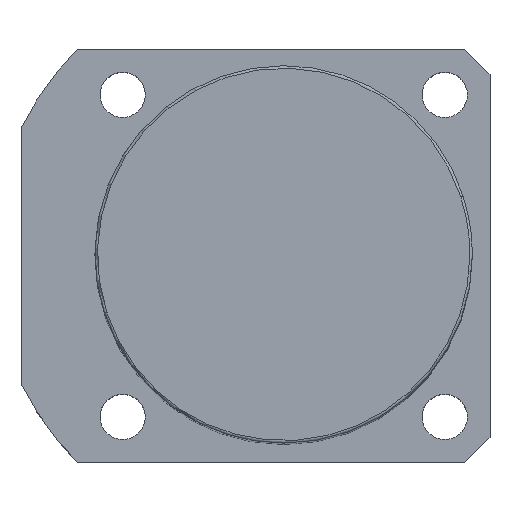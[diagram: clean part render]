
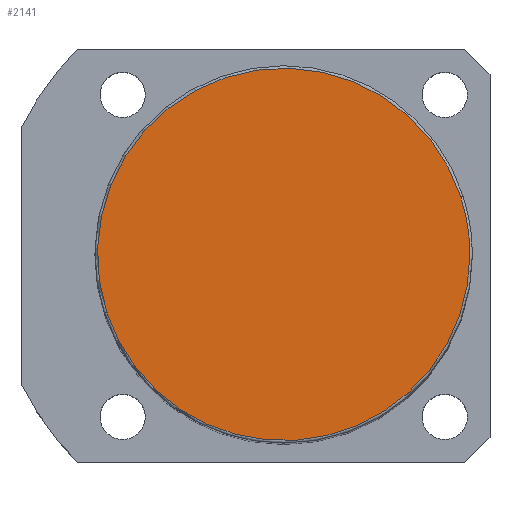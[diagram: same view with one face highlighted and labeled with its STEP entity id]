
A CAD part, top view. The second image highlights one B-rep face of the part: STEP entity #2141.
In plain terms, the highlighted planar face has unit normal (0, 0, 1).
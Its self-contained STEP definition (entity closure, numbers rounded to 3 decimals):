
#2107=CARTESIAN_POINT('',(37.0,0.0,178.0));
#2108=VERTEX_POINT('',#2107);
#2109=CARTESIAN_POINT('',(35.189,11.434,178.0));
#2110=VERTEX_POINT('',#2109);
#2111=CARTESIAN_POINT('',(0.0,0.0,178.0));
#2112=DIRECTION('',(0.0,0.0,1.0));
#2113=DIRECTION('',(1.0,0.0,0.0));
#2114=AXIS2_PLACEMENT_3D('',#2111,#2112,#2113);
#2115=CIRCLE('',#2114,37.0);
#2116=EDGE_CURVE('no 1984',#2108,#2110,#2115,.T.);
#2117=ORIENTED_EDGE('',*,*,#2116,.T.);
#2118=CARTESIAN_POINT('',(-35.189,-11.434,178.0));
#2119=VERTEX_POINT('',#2118);
#2120=CARTESIAN_POINT('',(0.0,0.0,178.0));
#2121=DIRECTION('',(0.0,0.0,1.0));
#2122=DIRECTION('',(1.0,0.0,0.0));
#2123=AXIS2_PLACEMENT_3D('',#2120,#2121,#2122);
#2124=CIRCLE('',#2123,37.0);
#2125=EDGE_CURVE('no 1990',#2110,#2119,#2124,.T.);
#2126=ORIENTED_EDGE('',*,*,#2125,.T.);
#2127=CARTESIAN_POINT('',(0.0,0.0,178.0));
#2128=DIRECTION('',(0.0,0.0,1.0));
#2129=DIRECTION('',(1.0,0.0,0.0));
#2130=AXIS2_PLACEMENT_3D('',#2127,#2128,#2129);
#2131=CIRCLE('',#2130,37.0);
#2132=EDGE_CURVE('no 1994',#2119,#2108,#2131,.T.);
#2133=ORIENTED_EDGE('',*,*,#2132,.T.);
#2134=EDGE_LOOP('',(#2117,#2126,#2133));
#2135=FACE_OUTER_BOUND('',#2134,.T.);
#2136=CARTESIAN_POINT('',(0.0,0.0,178.0));
#2137=DIRECTION('',(0.0,0.0,1.0));
#2138=DIRECTION('',(1.0,0.0,0.0));
#2139=AXIS2_PLACEMENT_3D('',#2136,#2137,#2138);
#2140=PLANE('',#2139);
#2141=ADVANCED_FACE('no 1975',(#2135),#2140,.T.);
